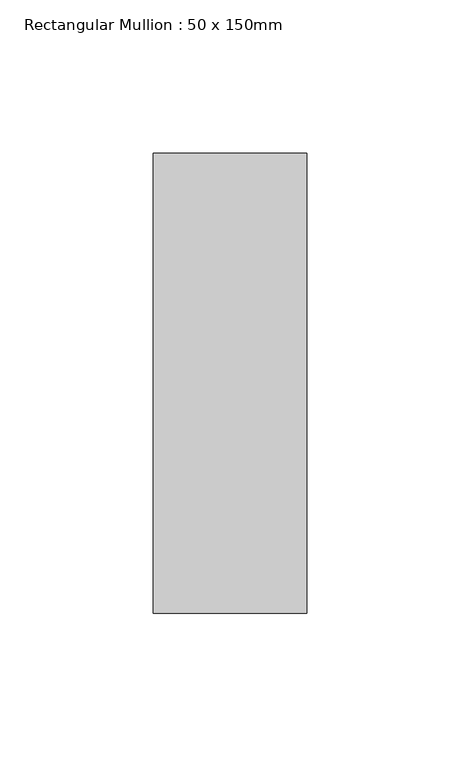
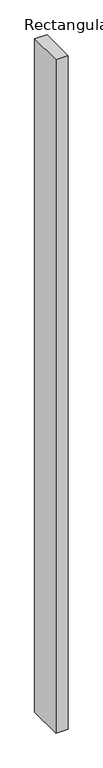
"""IFC4 building model written with IfcOpenShell, lengths in millimetres: member geometry, Rectangular Mullion : 50 x 150mm."""

from ifc_helpers import new_model, si_unit, frame, origin, place, context, project, spatial, polyline, outline, extrude, source, transform, mapped, element, save


def rectangular_mullion_50_x_150mm_1a59cfe9(model_context):
    return source(origin(), model_context, "Body", "SweptSolid", [
        extrude(outline(polyline([(25.0, 75.0), (25.0, -75.0), (-25.0, -75.0), (-25.0, 75.0), (25.0, 75.0)])), frame((0.0, 0.0, -2909.9999998), z_axis=(0.0, 0.0, 1.0), x_axis=(1.0, 0.0, 0.0)), (0.0, 0.0, 1.0), 2909.9999998),
    ])


if __name__ == "__main__":
    model = new_model("IFC4")
    model_context = context("Model", 3, world=origin())
    ifc_project = project(units=[si_unit("LENGTHUNIT", "METRE", prefix="MILLI")], contexts=[model_context])
    site = spatial("IfcSite", under=ifc_project)
    building = spatial("IfcBuilding", under=site)
    placement = place(None, origin())
    rectangular_mullion_50_x_150mm_shape = rectangular_mullion_50_x_150mm_1a59cfe9(model_context)
    element("IfcMember", 1, ObjectType="Rectangular Mullion : 50 x 150mm", at=placement, inside=building, context=model_context, shape_type="MappedRepresentation", body=[
        mapped(rectangular_mullion_50_x_150mm_shape, transform((0.0, 0.0, 0.0), x_axis=(1.0, 0.0, 0.0), y_axis=(0.0, 1.0, 0.0), z_axis=(0.0, 0.0, 1.0))),
    ])
    save(model, "model.ifc")
